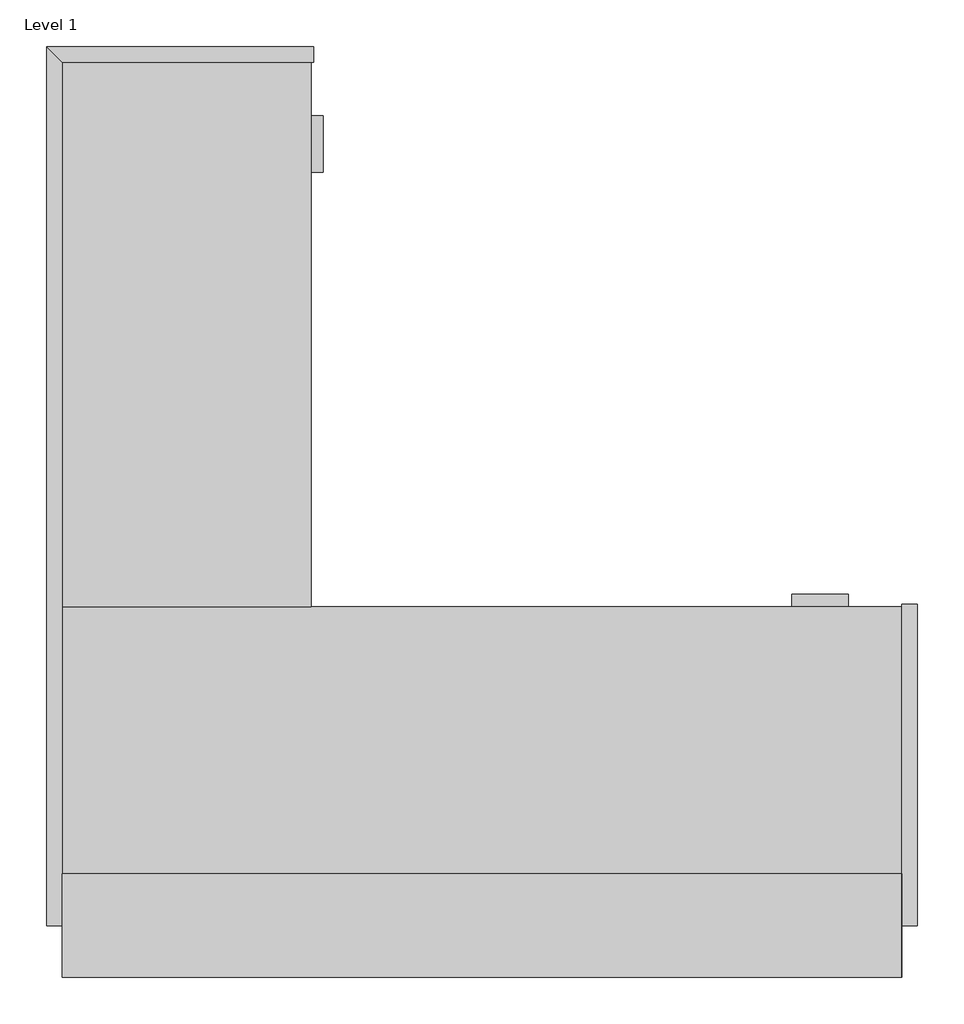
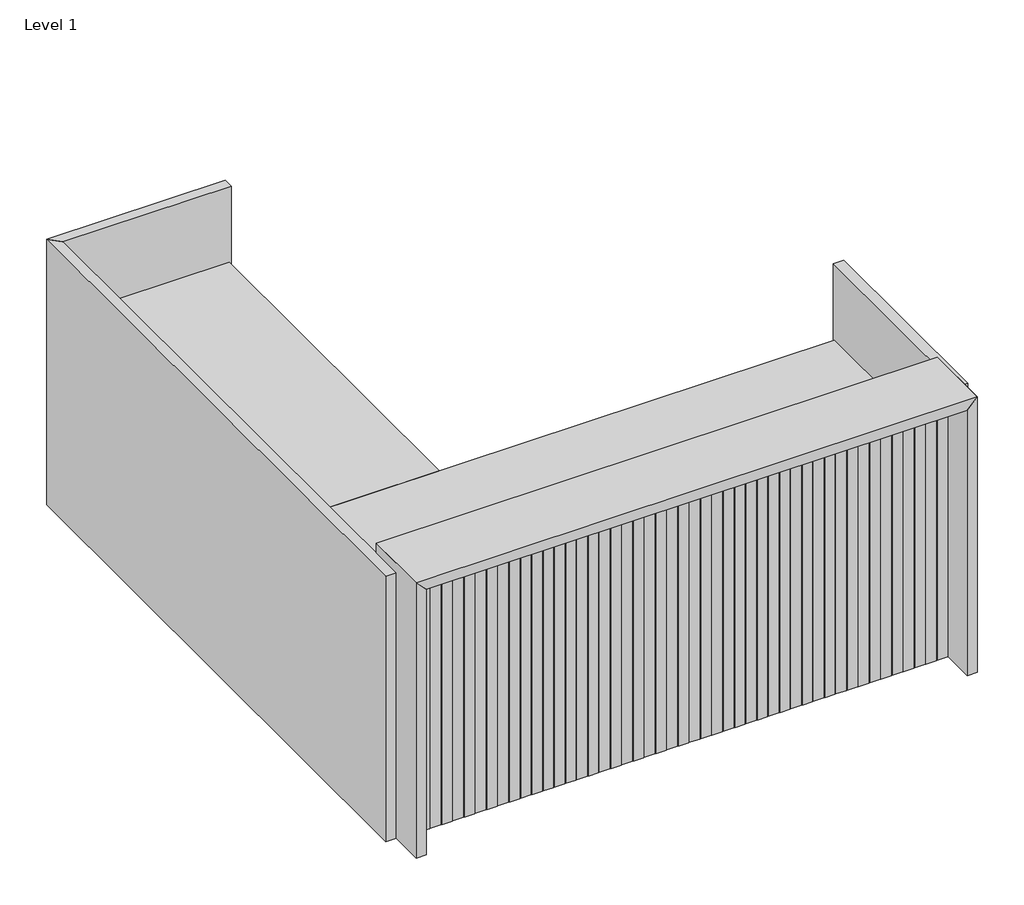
# One storey: 10 proxies.
"""IFC4 building model written with IfcOpenShell, lengths in millimetres."""

from ifc_helpers import new_model, si_unit, origin, place, context, project, spatial, transform, mapped, element, save
from components import generic_models_754e1a55, generic_models_9b6093a6, generic_models_cd152bde, generic_models_adff37a0, generic_models_8ef14ef5, generic_models_c0fca62b, generic_models_abbd5625, cantilever_bracket_10x18x_5_fb91e7c7

model = new_model("IFC4")

# Units and contexts
model_context = context("Model", 3, world=origin())
ifc_project = project(units=[si_unit("LENGTHUNIT", "METRE", prefix="MILLI")], contexts=[model_context])

# Site, building, storey
site = spatial("IfcSite", under=ifc_project)
building = spatial("IfcBuilding", under=site)
storey = spatial("IfcBuildingStorey", under=building, Name="Level 1", Elevation=0.0)

# Proxies
placement = place(None, origin())
generic_models_shape = generic_models_754e1a55(model_context)
element("IfcBuildingElementProxy", 1, Name="FOUNDATION^PEDESTAL_LETTER BBF 26x29.75D-SOLID ASSEMBLY", ObjectType="FOUNDATION^PEDESTAL_LETTER BBF 26x29.75D-SOLID ASSEMBLY", at=placement, inside=storey, context=model_context, shape_type="MappedRepresentation", body=[
    mapped(generic_models_shape, transform((2095.5, -2127.25, 38.1), x_axis=(-1.0, 0.0, 0.0), y_axis=(0.0, 0.0, 1.0), z_axis=(0.0, 1.0, 0.0))),
])
generic_models_2_shape = generic_models_9b6093a6(model_context)
element("IfcBuildingElementProxy", 2, Name="FOUNDATION^ADMIN 1_42x81 STRAIGHT FRONT TRANSACTION-PARTS SOLID", ObjectType="FOUNDATION^ADMIN 1_42x81 STRAIGHT FRONT TRANSACTION-PARTS SOLID", at=placement, inside=storey, context=model_context, shape_type="MappedRepresentation", body=[
    mapped(generic_models_2_shape, transform((38.1, -2025.65, 0.0), x_axis=(1.0, 0.0, 0.0), y_axis=(0.0, 0.0, 1.0), z_axis=(0.0, -1.0, 0.0))),
])
generic_models_3_shape = generic_models_cd152bde(model_context)
element("IfcBuildingElementProxy", 3, Name="HAFELE^BUS BAR LIGHT_ALUMINUM EXTRUSION-LIGHT BAR (MOD LENGTH 78)", ObjectType="HAFELE^BUS BAR LIGHT_ALUMINUM EXTRUSION-LIGHT BAR (MOD LENGTH 78)", at=placement, inside=storey, context=model_context, shape_type="MappedRepresentation", body=[
    mapped(generic_models_3_shape, transform((2057.4, -2205.75, 1028.7), x_axis=(0.0, 1.0, 0.0), y_axis=(-1.0, 0.0, 0.0), z_axis=(0.0, 0.0, 1.0))),
])
generic_models_4_shape = generic_models_adff37a0(model_context)
element("IfcBuildingElementProxy", 4, Name="FOUNDATION^PEDESTAL_PLINTH-14.25x27.38", ObjectType="FOUNDATION^PEDESTAL_PLINTH-14.25x27.38", at=placement, inside=storey, context=model_context, shape_type="MappedRepresentation", body=[
    mapped(generic_models_4_shape, transform((1733.55, -2127.25, 0.0), x_axis=(1.0, 0.0, 0.0), y_axis=(0.0, 0.0, 1.0), z_axis=(0.0, -1.0, 0.0))),
])
generic_models_5_shape = generic_models_8ef14ef5(model_context)
element("IfcBuildingElementProxy", 5, Name="FOUNDATION^ADMIN 1_L-SHAPE-PARTS SOLID", ObjectType="FOUNDATION^ADMIN 1_L-SHAPE-PARTS SOLID", at=placement, inside=storey, context=model_context, shape_type="MappedRepresentation", body=[
    mapped(generic_models_5_shape, transform((2095.5, -2152.65, 0.0), x_axis=(1.0, 0.0, 0.0), y_axis=(0.0, 0.0, 1.0), z_axis=(0.0, -1.0, 0.0))),
])
generic_models_6_shape = generic_models_c0fca62b(model_context)
element("IfcBuildingElementProxy", 6, Name="FOUNDATION^PEDESTAL_PLINTH-14.25x21.63", ObjectType="FOUNDATION^PEDESTAL_PLINTH-14.25x21.63", at=placement, inside=storey, context=model_context, shape_type="MappedRepresentation", body=[
    mapped(generic_models_6_shape, transform((587.375, -400.05, 0.0), x_axis=(0.0, 1.0, 0.0), y_axis=(0.0, 0.0, 1.0), z_axis=(1.0, 0.0, 0.0))),
])
generic_models_7_shape = generic_models_abbd5625(model_context)
element("IfcBuildingElementProxy", 7, Name="FOUNDATION^PEDESTAL_LETTER BBF 26x24D-SOLID ASSEMBLY", ObjectType="FOUNDATION^PEDESTAL_LETTER BBF 26x24D-SOLID ASSEMBLY", at=placement, inside=storey, context=model_context, shape_type="MappedRepresentation", body=[
    mapped(generic_models_7_shape, transform((38.1, -438.15, 38.1), x_axis=(0.0, 1.0, 0.0), y_axis=(0.0, 0.0, 1.0), z_axis=(1.0, 0.0, 0.0))),
])
cantilever_bracket_10x18x_5_shape = cantilever_bracket_10x18x_5_fb91e7c7(model_context)
element("IfcBuildingElementProxy", 8, Name="CANTILEVER BRACKET-10x18x.5", ObjectType="CANTILEVER BRACKET-10x18x.5", at=placement, inside=storey, context=model_context, shape_type="MappedRepresentation", body=[
    mapped(cantilever_bracket_10x18x_5_shape, transform((923.925, -2127.25, 444.5), x_axis=(1.0, 0.0, 0.0), y_axis=(0.0, 0.0, 1.0), z_axis=(0.0, -1.0, 0.0))),
])
element("IfcBuildingElementProxy", 9, Name="CANTILEVER BRACKET-10x18x.5", ObjectType="CANTILEVER BRACKET-10x18x.5", at=placement, inside=storey, context=model_context, shape_type="MappedRepresentation", body=[
    mapped(cantilever_bracket_10x18x_5_shape, transform((152.4, -2127.25, 444.5), x_axis=(1.0, 0.0, 0.0), y_axis=(0.0, 0.0, 1.0), z_axis=(0.0, -1.0, 0.0))),
])
element("IfcBuildingElementProxy", 10, Name="CANTILEVER BRACKET-10x18x.5", ObjectType="CANTILEVER BRACKET-10x18x.5", at=placement, inside=storey, context=model_context, shape_type="MappedRepresentation", body=[
    mapped(cantilever_bracket_10x18x_5_shape, transform((38.1, -1244.6, 444.5), x_axis=(0.0, -1.0, 0.0), y_axis=(0.0, 0.0, 1.0), z_axis=(-1.0, 0.0, 0.0))),
])

save(model, "model.ifc")
